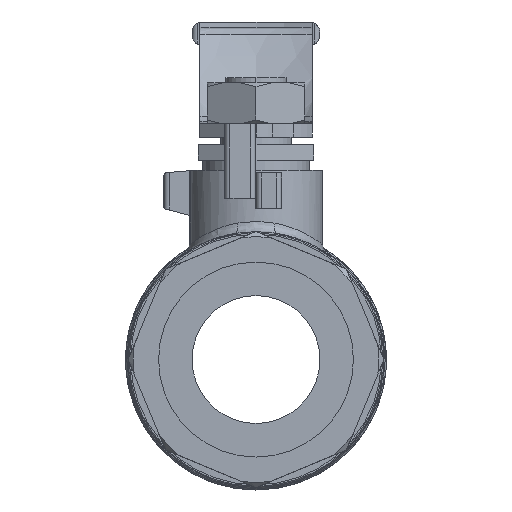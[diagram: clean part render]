
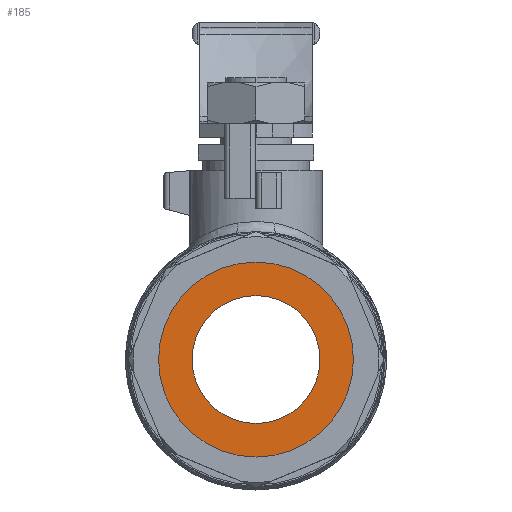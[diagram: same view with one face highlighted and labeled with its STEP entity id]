
A CAD part, left-side view. The second image highlights one B-rep face of the part: STEP entity #185.
In plain terms, the highlighted planar face has unit normal (-1, 0, 0).
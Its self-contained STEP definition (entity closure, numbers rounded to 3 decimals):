
#185=ADVANCED_FACE('',(#1694,#1695),#1693,.T.);
#1693=PLANE('',#3533);
#1694=FACE_OUTER_BOUND('',#3534,.T.);
#1695=FACE_BOUND('',#3535,.T.);
#3530=CARTESIAN_POINT('',(-21.,-39.605,-43.827));
#3531=DIRECTION('',(-1.,0.,0.));
#3532=DIRECTION('',(0.,0.,1.));
#3533=AXIS2_PLACEMENT_3D('',#3530,#3531,#3532);
#3534=EDGE_LOOP('',(#4680,#4681));
#3535=EDGE_LOOP('',(#4682,#4683));
#4680=ORIENTED_EDGE('',*,*,#5386,.F.);
#4681=ORIENTED_EDGE('',*,*,#5387,.F.);
#4682=ORIENTED_EDGE('',*,*,#5388,.T.);
#4683=ORIENTED_EDGE('',*,*,#5389,.T.);
#5386=EDGE_CURVE('',#8366,#8367,#8368,.T.);
#5387=EDGE_CURVE('',#8367,#8366,#8374,.T.);
#5388=EDGE_CURVE('',#8380,#8381,#8382,.T.);
#5389=EDGE_CURVE('',#8381,#8380,#8388,.T.);
#8366=VERTEX_POINT('',#11090);
#8367=VERTEX_POINT('',#11091);
#8368=CIRCLE('',#11095,19.055);
#8374=CIRCLE('',#11099,19.055);
#8380=VERTEX_POINT('',#11100);
#8381=VERTEX_POINT('',#11101);
#8382=CIRCLE('',#11105,12.5);
#8388=CIRCLE('',#11109,12.5);
#11090=CARTESIAN_POINT('',(-21.,0.,-19.055));
#11091=CARTESIAN_POINT('',(-21.,0.,19.055));
#11092=CARTESIAN_POINT('',(-21.,0.,0.));
#11093=DIRECTION('',(1.,0.,0.));
#11094=DIRECTION('',(0.,0.,1.));
#11095=AXIS2_PLACEMENT_3D('',#11092,#11093,#11094);
#11096=CARTESIAN_POINT('',(-21.,0.,0.));
#11097=DIRECTION('',(1.,0.,0.));
#11098=DIRECTION('',(0.,0.,1.));
#11099=AXIS2_PLACEMENT_3D('',#11096,#11097,#11098);
#11100=CARTESIAN_POINT('',(-21.,0.,12.5));
#11101=CARTESIAN_POINT('',(-21.,0.,-12.5));
#11102=CARTESIAN_POINT('',(-21.,0.,0.));
#11103=DIRECTION('',(1.,0.,0.));
#11104=DIRECTION('',(0.,0.,1.));
#11105=AXIS2_PLACEMENT_3D('',#11102,#11103,#11104);
#11106=CARTESIAN_POINT('',(-21.,0.,0.));
#11107=DIRECTION('',(1.,0.,0.));
#11108=DIRECTION('',(0.,0.,1.));
#11109=AXIS2_PLACEMENT_3D('',#11106,#11107,#11108);
